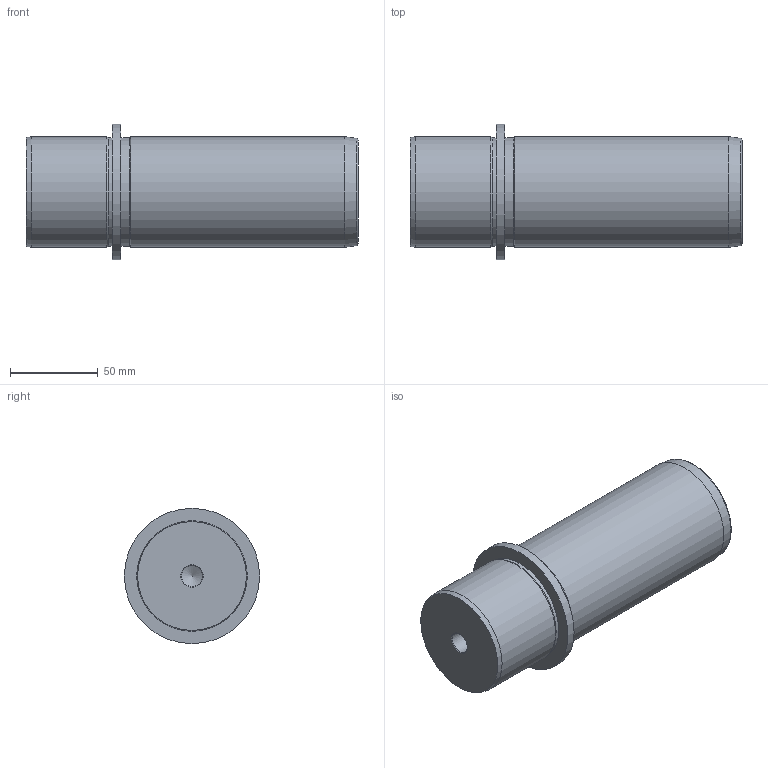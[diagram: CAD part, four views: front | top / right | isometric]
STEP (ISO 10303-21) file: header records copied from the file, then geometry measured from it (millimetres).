
FILE_DESCRIPTION(/* description */ ('Impex Ready, www.impex-ready.pl'),/* implementation_level */ '2;1');
FILE_NAME(/* name */ 'C:\Users\VIKKY\Nextcloud\SM\projekt 10 - części na stronę internetową\Pliki_3D_new\291 Słupy CEBT\291_CEBT_STEP\CEBT63140.ipt.step',/* time_stamp */ '2021-12-17T13:23:33+01:00',/* author */ ('SM'),/* organization */ (''),/* preprocessor_version */ 'ST-DEVELOPER v18.1',/* originating_system */ 'Autodesk Inventor 2021',/* authorisation */ '');
FILE_SCHEMA (('AUTOMOTIVE_DESIGN { 1 0 10303 214 3 1 1 }'));
Length unit declared in the file: millimetre
Products named in the file (1): CEBT63140
Bounding box: 189 x 77 x 77 mm (x, y, z)
Volume: 592079.1 mm3; surface area: 47790.9 mm2
Topology: 1 solids, 1 shells, 17 faces, 31 edges, 18 vertices
Faces by surface type: cone 6, cylinder 6, plane 4, torus 1
Full cylindrical faces by diameter (mm): 12 x1, 62 x2, 63 x2, 77 x1
Entity records: 508 total; most frequent: DIRECTION 84, CARTESIAN_POINT 66, ORIENTED_EDGE 60, AXIS2_PLACEMENT_3D 36, EDGE_CURVE 30, EDGE_LOOP 20, CIRCLE 18, VERTEX_POINT 18
